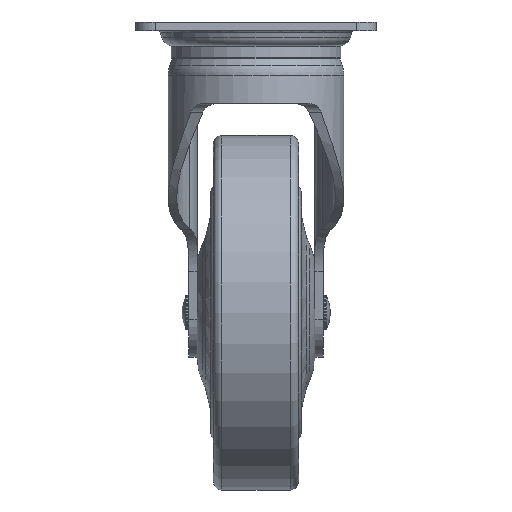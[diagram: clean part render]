
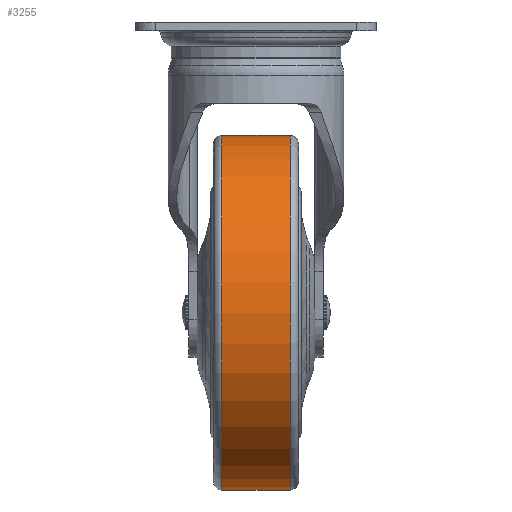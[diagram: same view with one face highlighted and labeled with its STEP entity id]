
A CAD part, left-side view. The second image highlights one B-rep face of the part: STEP entity #3255.
In plain terms, the highlighted cylindrical face has radius 62.499 mm (diameter 124.998 mm), a full revolution.
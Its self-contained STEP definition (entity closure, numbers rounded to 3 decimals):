
#3213=CARTESIAN_POINT('',(141.051,301.064,-157.599));
#3214=VERTEX_POINT('',#3213);
#3215=CARTESIAN_POINT('',(141.051,301.064,-95.1));
#3216=DIRECTION('',(0.0,-1.0,0.0));
#3217=DIRECTION('',(0.0,0.0,1.0));
#3218=AXIS2_PLACEMENT_3D('',#3215,#3216,#3217);
#3219=CIRCLE('',#3218,62.499);
#3220=EDGE_CURVE('',#3214,#3214,#3219,.T.);
#3236=CARTESIAN_POINT('',(141.051,313.064,-95.1));
#3237=DIRECTION('',(0.0,-1.0,0.0));
#3238=DIRECTION('',(0.0,0.0,1.0));
#3239=AXIS2_PLACEMENT_3D('',#3236,#3237,#3238);
#3240=CYLINDRICAL_SURFACE('',#3239,62.499);
#3241=CARTESIAN_POINT('',(141.051,325.064,-157.599));
#3242=VERTEX_POINT('',#3241);
#3243=CARTESIAN_POINT('',(141.051,325.064,-95.1));
#3244=DIRECTION('',(0.0,-1.0,0.0));
#3245=DIRECTION('',(0.0,0.0,1.0));
#3246=AXIS2_PLACEMENT_3D('',#3243,#3244,#3245);
#3247=CIRCLE('',#3246,62.499);
#3248=EDGE_CURVE('',#3242,#3242,#3247,.T.);
#3249=ORIENTED_EDGE('',*,*,#3248,.T.);
#3250=EDGE_LOOP('',(#3249));
#3251=FACE_OUTER_BOUND('',#3250,.T.);
#3252=ORIENTED_EDGE('',*,*,#3220,.F.);
#3253=EDGE_LOOP('',(#3252));
#3254=FACE_BOUND('',#3253,.T.);
#3255=ADVANCED_FACE('',(#3251,#3254),#3240,.T.);
